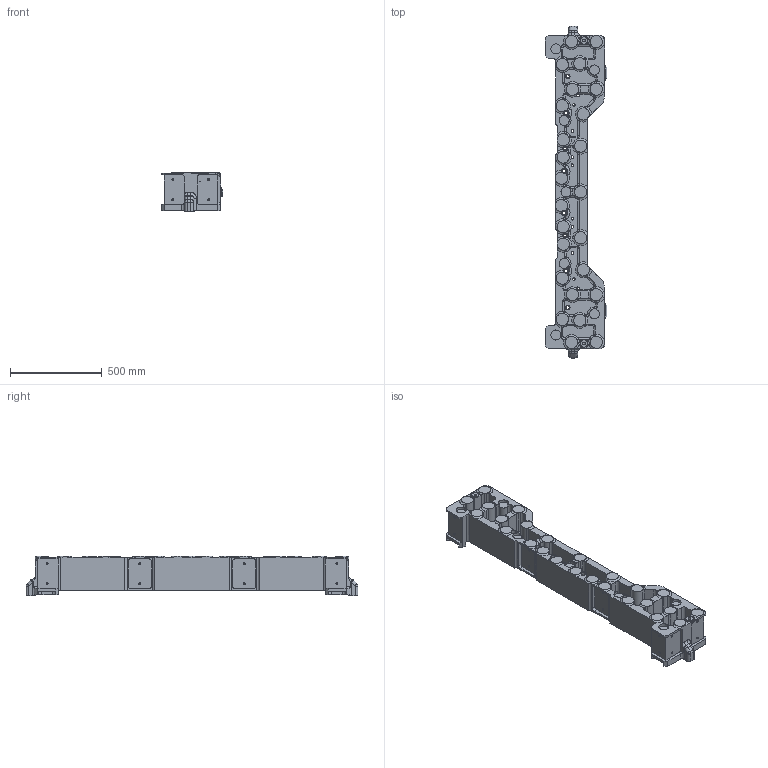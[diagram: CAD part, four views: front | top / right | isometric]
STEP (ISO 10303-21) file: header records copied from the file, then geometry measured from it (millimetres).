
FILE_DESCRIPTION(/* description */ (''),/* implementation_level */ '2;1');
FILE_NAME(/* name */ '108_Podstawa docisku.stp',/* time_stamp */ '2021-06-30T15:38:55+02:00',/* author */ (''),/* organization */ (''),/* preprocessor_version */ 'ST-DEVELOPER v16',/* originating_system */ 'SIEMENS PLM Software NX 10.0',/* authorisation */ '');
FILE_SCHEMA (('AUTOMOTIVE_DESIGN { 1 0 10303 214 3 1 1 1 }'));
Length unit declared in the file: millimetre
Products named in the file (1): 108_Podstawa docisku
Bounding box: 335 x 1810 x 215 mm (x, y, z)
Volume: 47657773.2 mm3; surface area: 2508497.6 mm2
Topology: 1 solids, 1 shells, 1274 faces, 3460 edges, 2216 vertices
Faces by surface type: cylinder 507, plane 427, torus 130, bspline 116, cone 55, extrusion 31, sphere 8
Full cylindrical faces by diameter (mm): 6.8 x8, 10.3 x24, 14 x23, 18 x8, 22 x8, 26 x16, 55 x2
Entity records: 47290 total; most frequent: CARTESIAN_POINT 11599, DIRECTION 6510, ORIENTED_EDGE 6052, EDGE_CURVE 3026, AXIS2_PLACEMENT_3D 2612, VERTEX_POINT 1985, EDGE_LOOP 1496, CIRCLE 1457
